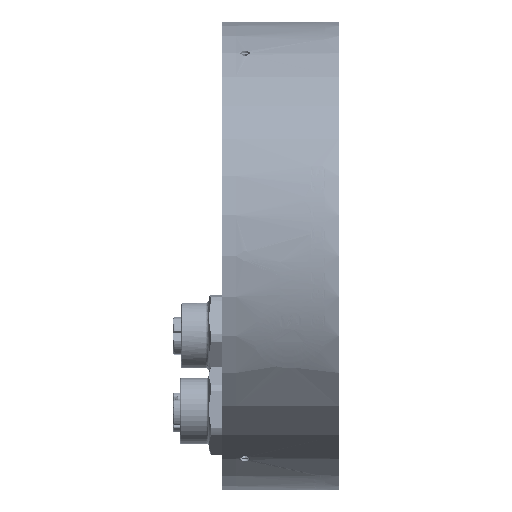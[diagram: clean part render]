
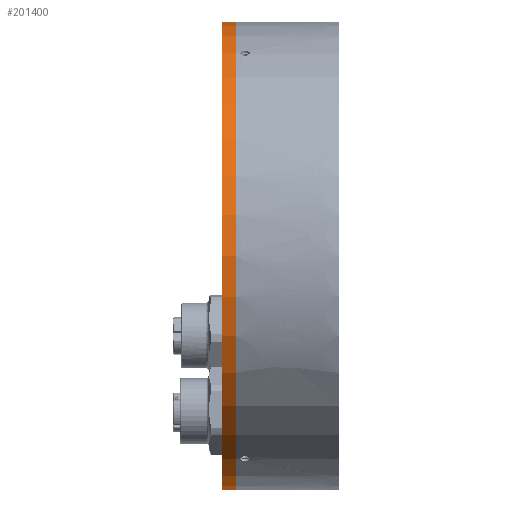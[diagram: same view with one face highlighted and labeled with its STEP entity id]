
A CAD part, front view. The second image highlights one B-rep face of the part: STEP entity #201400.
In plain terms, the highlighted cylindrical face has radius 50 mm (diameter 100 mm), a partial arc.
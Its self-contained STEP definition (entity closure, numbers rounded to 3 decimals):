
#3305 = DIRECTION ( 'NONE',  ( -1., 0., 0. ) ) ;
#12785 = ORIENTED_EDGE ( 'NONE', *, *, #118418, .T. ) ;
#23982 = VERTEX_POINT ( 'NONE', #217601 ) ;
#26064 = LINE ( 'NONE', #243696, #263260 ) ;
#31297 = AXIS2_PLACEMENT_3D ( 'NONE', #154529, #130337, #88387 ) ;
#45581 = ORIENTED_EDGE ( 'NONE', *, *, #207777, .F. ) ;
#49416 = CARTESIAN_POINT ( 'NONE',  ( 0., 0., 50. ) ) ;
#56341 = CYLINDRICAL_SURFACE ( 'NONE', #31297, 50. ) ;
#60046 = CARTESIAN_POINT ( 'NONE',  ( 6., 0., -50. ) ) ;
#73083 = CARTESIAN_POINT ( 'NONE',  ( -3., 0., 0. ) ) ;
#80418 = VERTEX_POINT ( 'NONE', #49416 ) ;
#88387 = DIRECTION ( 'NONE',  ( 0., 0., 1. ) ) ;
#104101 = AXIS2_PLACEMENT_3D ( 'NONE', #73083, #200331, #124572 ) ;
#118418 = EDGE_CURVE ( 'NONE', #80418, #174332, #26064, .T. ) ;
#120053 = VERTEX_POINT ( 'NONE', #125460 ) ;
#124572 = DIRECTION ( 'NONE',  ( 0., 0., 1. ) ) ;
#125460 = CARTESIAN_POINT ( 'NONE',  ( 0., 0., -50. ) ) ;
#130337 = DIRECTION ( 'NONE',  ( -1., 0., 0. ) ) ;
#134118 = CARTESIAN_POINT ( 'NONE',  ( -3., 0., 50. ) ) ;
#136247 = ORIENTED_EDGE ( 'NONE', *, *, #215829, .T. ) ;
#149949 = CARTESIAN_POINT ( 'NONE',  ( 0., 0., 0. ) ) ;
#154529 = CARTESIAN_POINT ( 'NONE',  ( 6., 0., 0. ) ) ;
#160913 = CIRCLE ( 'NONE', #104101, 50. ) ;
#170270 = ORIENTED_EDGE ( 'NONE', *, *, #270941, .F. ) ;
#171319 = AXIS2_PLACEMENT_3D ( 'NONE', #149949, #3305, #301383 ) ;
#174332 = VERTEX_POINT ( 'NONE', #134118 ) ;
#200331 = DIRECTION ( 'NONE',  ( -1., 0., 0. ) ) ;
#201400 = ADVANCED_FACE ( 'NONE', ( #277094 ), #56341, .T. ) ;
#207777 = EDGE_CURVE ( 'NONE', #23982, #174332, #160913, .T. ) ;
#209866 = LINE ( 'NONE', #60046, #223622 ) ;
#215829 = EDGE_CURVE ( 'NONE', #120053, #80418, #264103, .T. ) ;
#217601 = CARTESIAN_POINT ( 'NONE',  ( -3., 0., -50. ) ) ;
#221096 = DIRECTION ( 'NONE',  ( -1., 0., 0. ) ) ;
#223622 = VECTOR ( 'NONE', #234092, 1000. ) ;
#234092 = DIRECTION ( 'NONE',  ( -1., 0., 0. ) ) ;
#243696 = CARTESIAN_POINT ( 'NONE',  ( 6., 0., 50. ) ) ;
#263260 = VECTOR ( 'NONE', #221096, 1000. ) ;
#264103 = CIRCLE ( 'NONE', #171319, 50. ) ;
#270941 = EDGE_CURVE ( 'NONE', #120053, #23982, #209866, .T. ) ;
#277094 = FACE_OUTER_BOUND ( 'NONE', #318700, .T. ) ;
#301383 = DIRECTION ( 'NONE',  ( 0., 0., 1. ) ) ;
#318700 = EDGE_LOOP ( 'NONE', ( #170270, #136247, #12785, #45581 ) ) ;
